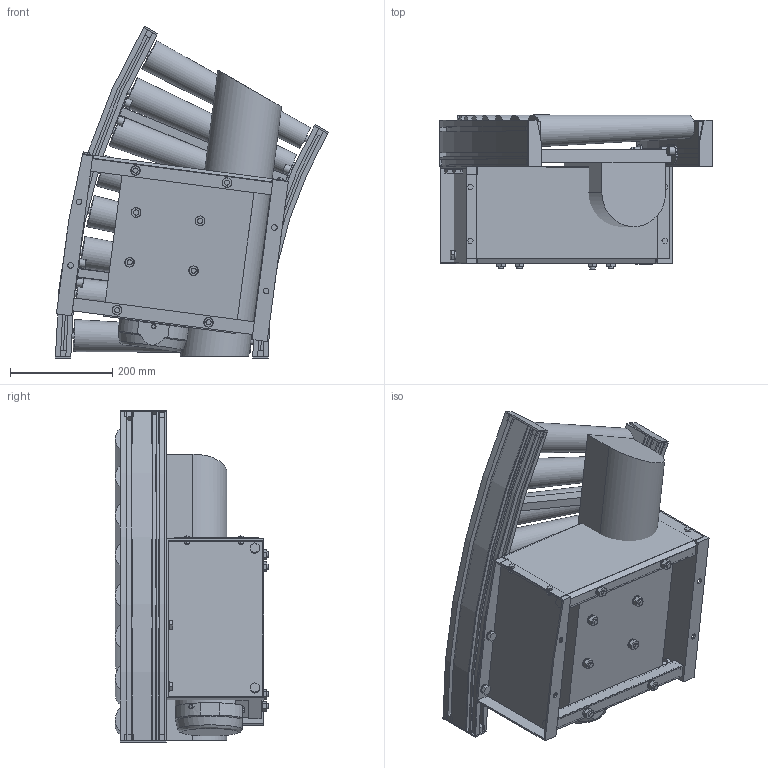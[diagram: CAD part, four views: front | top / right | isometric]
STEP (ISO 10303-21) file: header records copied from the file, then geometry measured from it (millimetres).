
FILE_DESCRIPTION( (''), '2;1');
FILE_NAME ('WEB-MCD1-50-355-75-30°-C9.stp','2026-06-19T10:51:01',(''),(''),'spGate 21.9.5 (****-****-****-****)','','');
FILE_SCHEMA (('AUTOMOTIVE_DESIGN'));
Length unit declared in the file: millimetre
Products named in the file (25): WEB-MCD1-50-355-75-30_-C9; TEMP_X_T-prt0; TEMP_X_T-prt1; TEMP_X_T-prt2; TEMP_X_T-prt3; TEMP_X_T-prt4; TEMP_X_T-prt5; TEMP_X_T-prt6; TEMP_X_T-prt7; TEMP_X_T-prt8; TEMP_X_T-prt9; TEMP_X_T-prt10; TEMP_X_T-prt11; TEMP_X_T-prt12; TEMP_X_T-prt13; TEMP_X_T-prt14; TEMP_X_T-prt15; TEMP_X_T-prt16; TEMP_X_T-prt17; TEMP_X_T-prt18; TEMP_X_T-prt19; TEMP_X_T-prt20; TEMP_X_T-prt21; TEMP_X_T-prt22; TEMP_X_T-prt23
Assembly tree (24 placements, depth 2):
  WEB-MCD1-50-355-75-30_-C9
    TEMP_X_T-prt0
    TEMP_X_T-prt1
    TEMP_X_T-prt2
    TEMP_X_T-prt3
    TEMP_X_T-prt4
    TEMP_X_T-prt5
    TEMP_X_T-prt6
    TEMP_X_T-prt7
    TEMP_X_T-prt8
    TEMP_X_T-prt9
    TEMP_X_T-prt10
    TEMP_X_T-prt11
    TEMP_X_T-prt12
    TEMP_X_T-prt13
    TEMP_X_T-prt14
    TEMP_X_T-prt15
    TEMP_X_T-prt16
    TEMP_X_T-prt17
    TEMP_X_T-prt18
    TEMP_X_T-prt19
    TEMP_X_T-prt20
    TEMP_X_T-prt21
    TEMP_X_T-prt22
    TEMP_X_T-prt23
Bounding box: 533.06 x 299.77 x 648.1 mm (x, y, z)
Volume: 23358864.1 mm3; surface area: 2442412.5 mm2
Topology: 24 solids, 32 shells, 1158 faces, 2768 edges, 1833 vertices
Faces by surface type: plane 876, cylinder 253, bspline 29
Full cylindrical faces by diameter (mm): 6 x9, 6.1 x4, 6.5 x8, 10 x30, 10.2 x16, 10.5 x4, 11 x29, 12 x17, 12.2 x4, 16 x8, 18.4 x16, 21 x4, 24 x1, 28 x1, 56 x1, 113.2 x1, 125 x1, 135.411 x1
Entity records: 57940 total; most frequent: CARTESIAN_POINT 6997, DIRECTION 5808, ORIENTED_EDGE 5534, COLOUR_RGB 3949, PRESENTATION_STYLE_ASSIGNMENT 3949, STYLED_ITEM 3949, EDGE_CURVE 2767, DRAUGHTING_PRE_DEFINED_CURVE_FONT 2767
